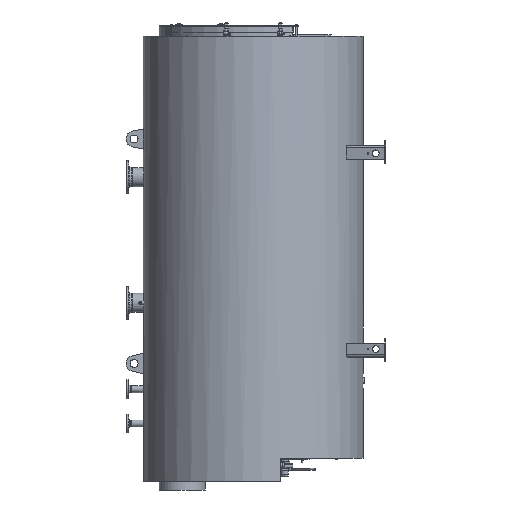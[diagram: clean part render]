
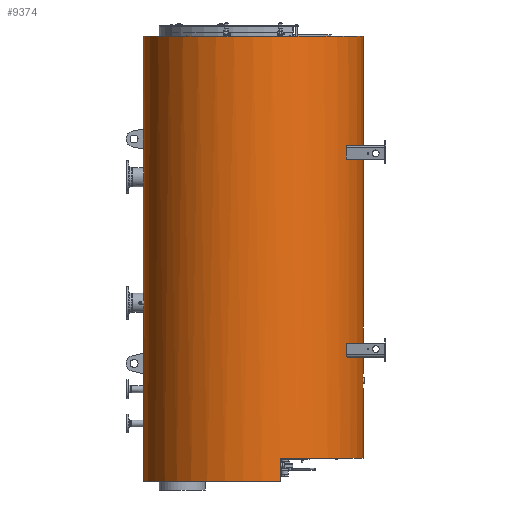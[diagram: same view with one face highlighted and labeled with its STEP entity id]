
A CAD part, left-side view. The second image highlights one B-rep face of the part: STEP entity #9374.
In plain terms, the highlighted cylindrical face has radius 962.5 mm (diameter 1925 mm), a full revolution.
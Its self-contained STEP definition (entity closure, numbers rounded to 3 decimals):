
#3933=LINE('',#36698,#5146);
#3934=LINE('',#36699,#5147);
#5146=VECTOR('',#29542,1.);
#5147=VECTOR('',#29543,1.);
#9374=ADVANCED_FACE('',(#12125,#12126,#12127),#10638,.T.);
#10638=CYLINDRICAL_SURFACE('',#26680,962.5);
#11115=CIRCLE('',#26676,962.5);
#11116=CIRCLE('',#26678,962.5);
#11117=CIRCLE('',#26679,962.5);
#12125=FACE_BOUND('',#13532,.T.);
#12126=FACE_BOUND('',#13533,.T.);
#12127=FACE_BOUND('',#13534,.T.);
#13532=EDGE_LOOP('',(#15992));
#13533=EDGE_LOOP('',(#15993));
#13534=EDGE_LOOP('',(#15994,#15995,#15996,#15997));
#15992=ORIENTED_EDGE('',*,*,#23380,.F.);
#15993=ORIENTED_EDGE('',*,*,#23381,.F.);
#15994=ORIENTED_EDGE('',*,*,#23382,.T.);
#15995=ORIENTED_EDGE('',*,*,#23383,.F.);
#15996=ORIENTED_EDGE('',*,*,#23378,.T.);
#15997=ORIENTED_EDGE('',*,*,#23384,.T.);
#21195=VERTEX_POINT('',#36568);
#21200=VERTEX_POINT('',#36577);
#21202=VERTEX_POINT('',#36692);
#21203=VERTEX_POINT('',#36694);
#21204=VERTEX_POINT('',#36696);
#21205=VERTEX_POINT('',#36697);
#23378=EDGE_CURVE('',#21195,#21200,#11115,.T.);
#23380=EDGE_CURVE('',#21202,#21202,#25917,.T.);
#23381=EDGE_CURVE('',#21203,#21203,#11116,.T.);
#23382=EDGE_CURVE('',#21204,#21205,#11117,.T.);
#23383=EDGE_CURVE('',#21195,#21205,#3933,.T.);
#23384=EDGE_CURVE('',#21200,#21204,#3934,.T.);
#25917=B_SPLINE_CURVE_WITH_KNOTS('',3,(#36628,#36629,#36630,#36631,#36632,
#36633,#36634,#36635,#36636,#36637,#36638,#36639,#36640,#36641,#36642,#36643,
#36644,#36645,#36646,#36647,#36648,#36649,#36650,#36651,#36652,#36653,#36654,
#36655,#36656,#36657,#36658,#36659,#36660,#36661,#36662,#36663,#36664,#36665,
#36666,#36667,#36668,#36669,#36670,#36671,#36672,#36673,#36674,#36675,#36676,
#36677,#36678,#36679,#36680,#36681,#36682,#36683,#36684,#36685,#36686,#36687,
#36688,#36689,#36690,#36691),.UNSPECIFIED.,.T.,.F.,(2,2,2,2,2,2,2,2,2,2,
2,2,2,2,2,2,2,2,2,2,2,2,2,2,2,2,2,2,2,2,2,2,2,2),(-0.062,0.,
0.031,0.062,0.094,0.125,0.156,0.188,0.219,
0.25,0.281,0.313,0.344,0.375,0.406,0.438,0.469,0.5,0.531,0.563,
0.594,0.625,0.656,0.688,0.719,0.75,0.781,
0.813,0.844,0.875,0.906,
0.938,1.,1.031),.UNSPECIFIED.);
#26676=AXIS2_PLACEMENT_3D('',#36578,#29534,#29535);
#26678=AXIS2_PLACEMENT_3D('',#36693,#29538,#29539);
#26679=AXIS2_PLACEMENT_3D('',#36695,#29540,#29541);
#26680=AXIS2_PLACEMENT_3D('',#36700,#29544,#29545);
#29534=DIRECTION('',(0.,0.,1.));
#29535=DIRECTION('',(1.,0.,0.));
#29538=DIRECTION('',(0.,0.,1.));
#29539=DIRECTION('',(1.,0.,0.));
#29540=DIRECTION('',(0.,0.,1.));
#29541=DIRECTION('',(1.,0.,0.));
#29542=DIRECTION('',(0.,0.,-1.));
#29543=DIRECTION('',(0.,0.,-1.));
#29544=DIRECTION('',(0.,0.,1.));
#29545=DIRECTION('',(1.,0.,0.));
#36568=CARTESIAN_POINT('',(-933.371,-235.,-3547.));
#36577=CARTESIAN_POINT('',(933.371,-235.,-3547.));
#36578=CARTESIAN_POINT('',(0.,0.,-3547.));
#36628=CARTESIAN_POINT('',(-9.914,-962.5,-2942.));
#36629=CARTESIAN_POINT('',(4.957,-962.5,-2942.));
#36630=CARTESIAN_POINT('',(9.831,-962.462,-2941.513));
#36631=CARTESIAN_POINT('',(19.418,-962.316,-2939.607));
#36632=CARTESIAN_POINT('',(24.182,-962.207,-2938.164));
#36633=CARTESIAN_POINT('',(33.264,-961.936,-2934.399));
#36634=CARTESIAN_POINT('',(37.571,-961.775,-2932.096));
#36635=CARTESIAN_POINT('',(45.722,-961.422,-2926.653));
#36636=CARTESIAN_POINT('',(49.58,-961.228,-2923.486));
#36637=CARTESIAN_POINT('',(56.496,-960.847,-2916.569));
#36638=CARTESIAN_POINT('',(59.6,-960.657,-2912.795));
#36639=CARTESIAN_POINT('',(65.083,-960.301,-2904.597));
#36640=CARTESIAN_POINT('',(67.412,-960.138,-2900.235));
#36641=CARTESIAN_POINT('',(71.153,-959.868,-2891.211));
#36642=CARTESIAN_POINT('',(72.593,-959.759,-2886.483));
#36643=CARTESIAN_POINT('',(74.52,-959.611,-2876.801));
#36644=CARTESIAN_POINT('',(74.997,-959.574,-2871.934));
#36645=CARTESIAN_POINT('',(75.003,-959.573,-2862.147));
#36646=CARTESIAN_POINT('',(74.515,-959.612,-2857.177));
#36647=CARTESIAN_POINT('',(72.602,-959.758,-2847.557));
#36648=CARTESIAN_POINT('',(71.186,-959.866,-2842.88));
#36649=CARTESIAN_POINT('',(67.43,-960.137,-2833.798));
#36650=CARTESIAN_POINT('',(65.082,-960.301,-2829.408));
#36651=CARTESIAN_POINT('',(59.655,-960.653,-2821.282));
#36652=CARTESIAN_POINT('',(56.557,-960.843,-2817.494));
#36653=CARTESIAN_POINT('',(49.559,-961.23,-2810.489));
#36654=CARTESIAN_POINT('',(45.769,-961.42,-2807.384));
#36655=CARTESIAN_POINT('',(37.65,-961.772,-2801.951));
#36656=CARTESIAN_POINT('',(33.266,-961.936,-2799.602));
#36657=CARTESIAN_POINT('',(24.182,-962.207,-2795.835));
#36658=CARTESIAN_POINT('',(19.507,-962.314,-2794.415));
#36659=CARTESIAN_POINT('',(9.894,-962.461,-2792.494));
#36660=CARTESIAN_POINT('',(4.922,-962.5,-2792.002));
#36661=CARTESIAN_POINT('',(-4.868,-962.5,-2791.998));
#36662=CARTESIAN_POINT('',(-9.735,-962.463,-2792.471));
#36663=CARTESIAN_POINT('',(-19.409,-962.316,-2794.387));
#36664=CARTESIAN_POINT('',(-24.148,-962.208,-2795.826));
#36665=CARTESIAN_POINT('',(-33.176,-961.939,-2799.56));
#36666=CARTESIAN_POINT('',(-37.534,-961.777,-2801.881));
#36667=CARTESIAN_POINT('',(-45.743,-961.421,-2807.36));
#36668=CARTESIAN_POINT('',(-49.521,-961.231,-2810.462));
#36669=CARTESIAN_POINT('',(-56.442,-960.85,-2817.37));
#36670=CARTESIAN_POINT('',(-59.612,-960.656,-2821.223));
#36671=CARTESIAN_POINT('',(-65.063,-960.302,-2829.373));
#36672=CARTESIAN_POINT('',(-67.37,-960.141,-2833.678));
#36673=CARTESIAN_POINT('',(-71.141,-959.869,-2842.749));
#36674=CARTESIAN_POINT('',(-72.59,-959.759,-2847.517));
#36675=CARTESIAN_POINT('',(-74.505,-959.613,-2857.104));
#36676=CARTESIAN_POINT('',(-74.995,-959.574,-2861.975));
#36677=CARTESIAN_POINT('',(-75.005,-959.573,-2871.878));
#36678=CARTESIAN_POINT('',(-74.522,-959.611,-2876.765));
#36679=CARTESIAN_POINT('',(-72.625,-959.757,-2886.353));
#36680=CARTESIAN_POINT('',(-71.188,-959.866,-2891.113));
#36681=CARTESIAN_POINT('',(-67.429,-960.137,-2900.205));
#36682=CARTESIAN_POINT('',(-65.128,-960.298,-2904.515));
#36683=CARTESIAN_POINT('',(-59.695,-960.651,-2912.667));
#36684=CARTESIAN_POINT('',(-56.532,-960.845,-2916.529));
#36685=CARTESIAN_POINT('',(-49.618,-961.226,-2923.453));
#36686=CARTESIAN_POINT('',(-45.847,-961.416,-2926.559));
#36687=CARTESIAN_POINT('',(-37.662,-961.772,-2932.045));
#36688=CARTESIAN_POINT('',(-33.294,-961.935,-2934.382));
#36689=CARTESIAN_POINT('',(-19.763,-962.339,-2940.006));
#36690=CARTESIAN_POINT('',(-9.914,-962.5,-2942.));
#36691=CARTESIAN_POINT('',(4.957,-962.5,-2942.));
#36692=CARTESIAN_POINT('',(0.,-962.5,-2942.));
#36693=CARTESIAN_POINT('',(0.,0.,150.));
#36694=CARTESIAN_POINT('',(962.5,0.,150.));
#36695=CARTESIAN_POINT('',(0.,0.,-3750.));
#36696=CARTESIAN_POINT('',(933.371,-235.,-3750.));
#36697=CARTESIAN_POINT('',(-933.371,-235.,-3750.));
#36698=CARTESIAN_POINT('',(-933.371,-235.,-3547.));
#36699=CARTESIAN_POINT('',(933.371,-235.,-3547.));
#36700=CARTESIAN_POINT('',(0.,0.,-3750.));
